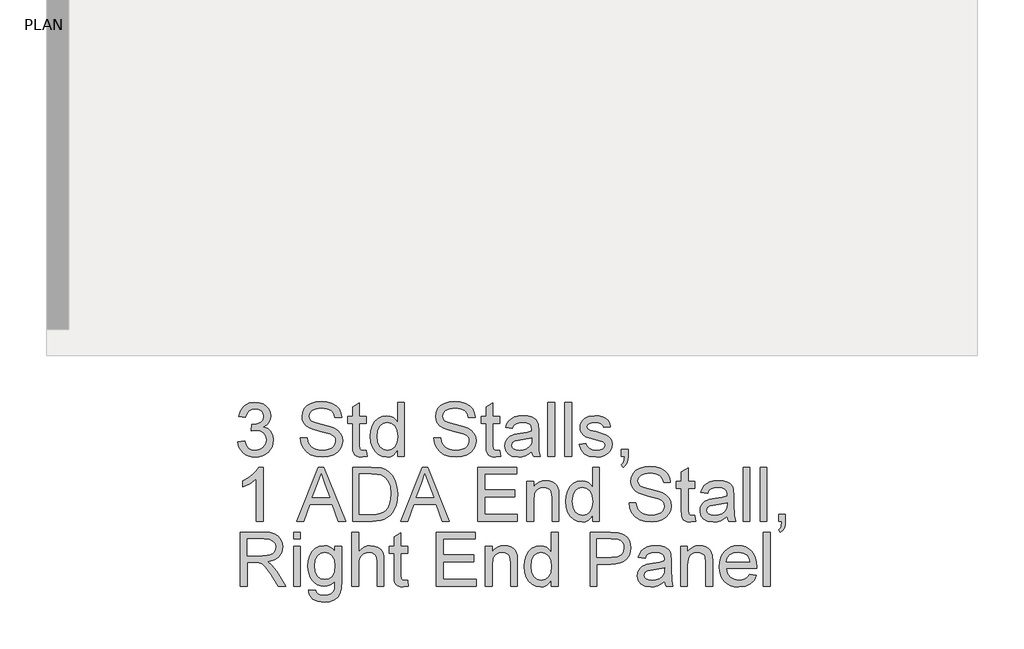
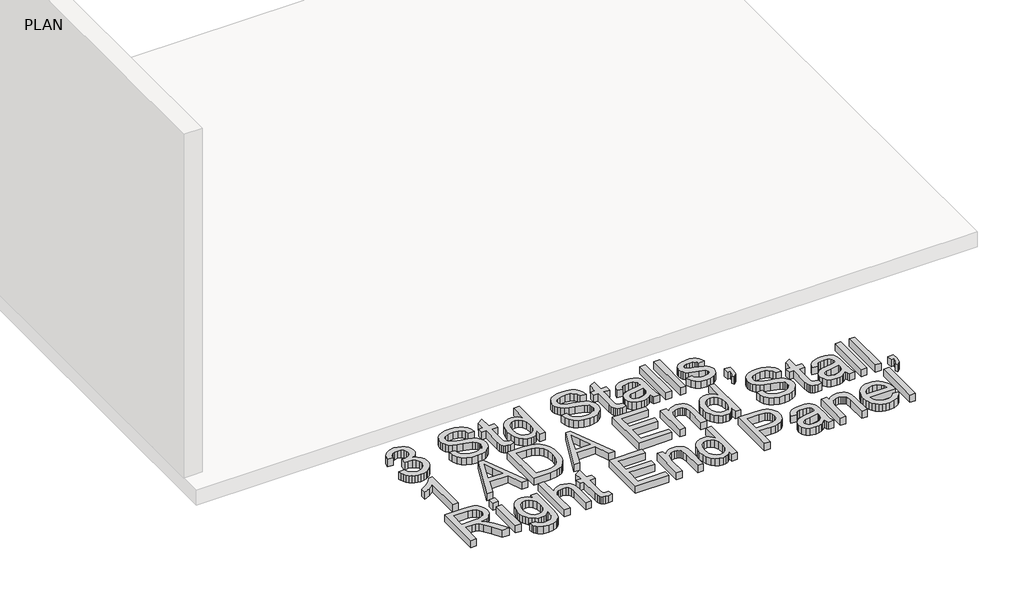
# One storey, part 13 of 21: 1 proxy.
"""IFC4 building model written with IfcOpenShell, lengths in millimetres."""

import ifcopenshell
import ifcopenshell.guid

model = None  # the IFC model being written
_history = None  # IfcOwnerHistory: only IFC2X3 demands one
_inside = {}  # id of a spatial element -> (the spatial element, [elements in it])
_under = {}  # id of a project, library or spatial element -> (it, [spatial elements below it])
_declared = {}  # id of a project -> (the project, [libraries it declares])
_typed = {}  # id of a type object -> (the type object, [elements of that type])
_made_of = {}  # id of a material, layer set ... -> (it, [elements and type objects made of it])


def new_model(schema):
    """Start an empty IFC model of exactly this schema.

    Asked for "IFC4X3", IfcOpenShell would pick the latest addendum, in which some entities
    have other attributes; the version numbers below select the first issue.
    IFC2X3 requires an IfcOwnerHistory on every rooted entity: one is made here for all.
    """
    global model, _history
    if schema == "IFC4X3":
        model = ifcopenshell.file(schema_version=(4, 3, 0, 0))
    else:
        model = ifcopenshell.file(schema=schema)
    _inside.clear()
    _under.clear()
    _declared.clear()
    _typed.clear()
    _made_of.clear()
    _history = None
    if model.schema == "IFC2X3":
        org = make("IfcOrganization", Name="unknown")
        user = make(
            "IfcPersonAndOrganization",
            ThePerson=make("IfcPerson", FamilyName="unknown"),
            TheOrganization=org,
        )
        app = make(
            "IfcApplication",
            ApplicationDeveloper=org,
            Version="unknown",
            ApplicationFullName="unknown",
            ApplicationIdentifier="unknown",
        )
        _history = make(
            "IfcOwnerHistory",
            OwningUser=user,
            OwningApplication=app,
            ChangeAction="ADDED",
            CreationDate=0,
        )
    return model


def make(cls, **values):
    """One entity of the class cls with the attributes given. An attribute that is None is left unset."""
    return model.create_entity(
        cls, **{name: value for name, value in values.items() if value is not None}
    )


def rooted(cls, **values):
    """An entity with a GlobalId (a new one), such as an element, a storey or a relation."""
    return make(cls, GlobalId=ifcopenshell.guid.new(), OwnerHistory=_history, **values)


def si_unit(unit_type, name, prefix=None):
    """IfcSIUnit, for example si_unit("LENGTHUNIT", "METRE", prefix="MILLI")."""
    return make("IfcSIUnit", UnitType=unit_type, Prefix=prefix, Name=name)


def assignment(units):
    """IfcUnitAssignment: the units of a project."""
    return None if units is None else make("IfcUnitAssignment", Units=units)


def point(xyz):
    """IfcCartesianPoint."""
    return None if xyz is None else make("IfcCartesianPoint", Coordinates=xyz)


def direction(xyz):
    """IfcDirection."""
    return None if xyz is None else make("IfcDirection", DirectionRatios=xyz)


def frame(location, z_axis=None, x_axis=None):
    """IfcAxis2Placement3D, a coordinate frame: its origin and axes. An axis left out is left unset."""
    return make(
        "IfcAxis2Placement3D",
        Location=point(location),
        Axis=direction(z_axis),
        RefDirection=direction(x_axis),
    )


def origin():
    """The frame at (0, 0, 0) with its axes left unset."""
    return frame((0.0, 0.0, 0.0))


def origin_with_axes():
    """The frame at (0, 0, 0) with the z axis (0, 0, 1) and the x axis (1, 0, 0) written out."""
    return frame((0.0, 0.0, 0.0), z_axis=(0.0, 0.0, 1.0), x_axis=(1.0, 0.0, 0.0))


def place(relative_to, where):
    """IfcLocalPlacement: puts the frame where relative to a parent placement (None: the world)."""
    return make(
        "IfcLocalPlacement", PlacementRelTo=relative_to, RelativePlacement=where
    )


def context(
    kind, dimensions, precision=None, world=None, true_north=None, identifier=None
):
    """IfcGeometricRepresentationContext, for example the 3D "Model" context."""
    return make(
        "IfcGeometricRepresentationContext",
        ContextIdentifier=identifier,
        ContextType=kind,
        CoordinateSpaceDimension=dimensions,
        Precision=precision,
        WorldCoordinateSystem=world,
        TrueNorth=true_north,
    )


def project(units=None, contexts=None):
    """IfcProject with its units and contexts."""
    return rooted(
        "IfcProject",
        Name="project",
        RepresentationContexts=contexts,
        UnitsInContext=assignment(units),
    )


def spatial(cls, under=None, at=None, **own):
    """A site, building, storey or space (cls), placed at a placement, below another one or the project."""
    s = rooted(cls, ObjectPlacement=at, **own)
    if under is not None:
        _under.setdefault(under.id(), (under, []))[1].append(s)
    return s


def polyline(points):
    """IfcPolyline through the points."""
    return make("IfcPolyline", Points=[point(p) for p in points])


def outline(outer, holes=None, kind="AREA"):
    """IfcArbitraryClosedProfileDef: a profile drawn as a closed curve; with holes, ...WithVoids."""
    if holes is None:
        return make("IfcArbitraryClosedProfileDef", ProfileType=kind, OuterCurve=outer)
    return make(
        "IfcArbitraryProfileDefWithVoids",
        ProfileType=kind,
        OuterCurve=outer,
        InnerCurves=holes,
    )


def extrude(swept, where, along, depth):
    """IfcExtrudedAreaSolid: the profile swept, set in the frame where, extruded along a direction by depth."""
    return make(
        "IfcExtrudedAreaSolid",
        SweptArea=swept,
        Position=where,
        ExtrudedDirection=direction(along),
        Depth=depth,
    )


def shape(context_of_items, identifier, shape_type, items):
    """IfcShapeRepresentation: the items that make up one representation, for example the "Body"."""
    return make(
        "IfcShapeRepresentation",
        ContextOfItems=context_of_items,
        RepresentationIdentifier=identifier,
        RepresentationType=shape_type,
        Items=items,
    )


def made_of(thing, what):
    """Note that an element or type object is made of a material, layer set ...; save() writes the relation."""
    if what is not None:
        _made_of.setdefault(what.id(), (what, []))[1].append(thing)
    return thing


def element(
    cls,
    number,
    at=None,
    inside=None,
    cuts=None,
    type_object=None,
    material=None,
    context=None,
    identifier="Body",
    shape_type=None,
    held_by="IfcProductDefinitionShape",
    body=None,
    shapes=None,
    **own,
):
    """One element of the class cls, such as IfcWall. Its Tag is "e" and its number.

    at: its placement. inside: the storey or other place that contains it. cuts: it is an
    opening in that element (IfcRelVoidsElement). A single representation is given by context,
    identifier, shape_type and body (its items); several are given by shapes. held_by: the class
    of the entity that holds the representations. save() writes the other relations.
    """
    e = rooted(cls, Tag="e%d" % number, ObjectPlacement=at, **own)
    if body is not None:
        shapes = [shape(context, identifier, shape_type, body)]
    if shapes is not None:
        e.Representation = make(held_by, Representations=shapes)
    if inside is not None:
        _inside.setdefault(inside.id(), (inside, []))[1].append(e)
    if cuts is not None:
        rooted(
            "IfcRelVoidsElement", RelatingBuildingElement=cuts, RelatedOpeningElement=e
        )
    if type_object is not None:
        _typed.setdefault(type_object.id(), (type_object, []))[1].append(e)
    return made_of(e, material)


def aggregate(whole, parts):
    """IfcRelAggregates: a whole, such as a stair, and the parts it consists of."""
    return rooted("IfcRelAggregates", RelatingObject=whole, RelatedObjects=parts)


def save(model, path):
    """Write the relations noted so far, then the file.

    IfcRelAggregates (storeys below a building ...), IfcRelContainedInSpatialStructure (elements
    in a storey), IfcRelDefinesByType, IfcRelAssociatesMaterial and IfcRelDeclares: one each for
    every whole, place, type object, material and project.
    """
    for whole, parts in _under.values():
        aggregate(whole, parts)
    for where, things in _inside.values():
        rooted(
            "IfcRelContainedInSpatialStructure",
            RelatedElements=things,
            RelatingStructure=where,
        )
    for kind, things in _typed.values():
        rooted("IfcRelDefinesByType", RelatedObjects=things, RelatingType=kind)
    for what, things in _made_of.values():
        rooted("IfcRelAssociatesMaterial", RelatedObjects=things, RelatingMaterial=what)
    for by, libraries in _declared.values():
        rooted("IfcRelDeclares", RelatingContext=by, RelatedDefinitions=libraries)
    model.write(path)


model = new_model("IFC4")

# Units and contexts
model_context = context("Model", 3, world=origin())
ifc_project = project(units=[si_unit("LENGTHUNIT", "METRE", prefix="MILLI")], contexts=[model_context])

# Site, building, storey
site = spatial("IfcSite", under=ifc_project)
building = spatial("IfcBuilding", under=site)
storey = spatial("IfcBuildingStorey", under=building, Name="PLAN", Elevation=0.0)

# Proxy
placement = place(None, origin())
element("IfcBuildingElementProxy", 1, Name="12\" Arial", ObjectType="12\" Arial", at=placement, inside=storey, context=model_context, shape_type="SweptSolid", body=[
    extrude(outline(polyline([(-14088.622826, 3793.9401982), (-14050.5519393, 3798.6990591), (-14042.0287451, 3774.7746298), (-14029.5460301, 3758.6205279), (-14012.4903472, 3749.4188243), (-13990.2482495, 3746.3515898), (-13964.1488721, 3750.5713609), (-13943.9980707, 3763.2306744), (-13931.1156856, 3782.1174033), (-13926.8215573, 3805.0194211), (-13931.078507, 3826.7596077), (-13943.8493563, 3844.3915589), (-13963.1822285, 3856.0749341), (-13987.1252471, 3859.9693925), (-14013.8194821, 3855.8053892), (-14009.5811217, 3893.876276), (-14003.4838312, 3893.4301328), (-13980.6747599, 3896.1627599), (-13960.2822976, 3904.3606413), (-13945.8941793, 3918.2282592), (-13941.0981398, 3937.970096), (-13944.574339, 3954.412332), (-13955.0029364, 3967.7501549), (-13970.9153773, 3976.5893671), (-13990.8431071, 3979.5357712), (-14010.8080155, 3976.5614832), (-14027.1294211, 3967.6386191), (-14039.0451625, 3952.7671789), (-14045.7930784, 3931.9471627), (-14083.8639652, 3936.7060236), (-14072.6546172, 3970.8917466), (-14052.7082981, 3996.4148557), (-14025.4192054, 4012.3087074), (-13992.1815367, 4017.6066579), (-13968.2478127, 4014.9948613), (-13946.2659653, 4007.1594712), (-13927.732433, 3994.7975866), (-13914.1436546, 3978.6063062), (-13905.8063535, 3959.9519435), (-13903.0272531, 3940.200812), (-13905.6669337, 3921.7974048), (-13913.5859756, 3905.1042133), (-13926.6728429, 3890.8833987), (-13944.8159999, 3879.8971222), (-13920.9845171, 3870.2678648), (-13903.3246819, 3853.872102), (-13892.3941734, 3831.6021204), (-13888.7506706, 3804.3502063), (-13890.572422, 3785.0359235), (-13896.0376762, 3767.2459632), (-13905.1464333, 3750.9803255), (-13917.8986932, 3736.2390105), (-13933.4347008, 3724.007251), (-13950.894701, 3715.2702799), (-13970.2786938, 3710.0280972), (-13991.5866791, 3708.280703), (-14010.8451941, 3709.7724944), (-14028.3934935, 3714.2478684), (-14044.2315772, 3721.7068251), (-14058.3594453, 3732.1493645), (-14070.2054769, 3744.9620396), (-14079.1980508, 3759.5314036), (-14085.3371672, 3775.8574565), (-14088.622826, 3793.9401982)])), origin_with_axes(), (0.0, 0.0, 1.0), 50.8),
    extrude(outline(polyline([(-13736.4671235, 3817.7345025), (-13698.3962368, 3817.7345025), (-13694.0277512, 3796.6077628), (-13686.1272986, 3779.6264371), (-13673.8025926, 3766.1491945), (-13656.1613468, 3755.5347041), (-13634.5977586, 3748.6473684), (-13610.5060255, 3746.3515898), (-13589.295634, 3748.0896894), (-13570.7249232, 3753.3039881), (-13555.6768847, 3761.5576373), (-13545.0345103, 3772.4137886), (-13538.7048536, 3784.8779144), (-13536.594968, 3797.9554871), (-13538.1750585, 3810.6984523), (-13542.9153301, 3821.7126127), (-13552.5445876, 3831.1095039), (-13568.7916359, 3839.0006619), (-13624.2249291, 3853.5374946), (-13660.6134842, 3863.1574574), (-13683.8965826, 3872.3126878), (-13702.8483741, 3885.1207156), (-13716.2791435, 3900.6427812), (-13724.2818373, 3918.5442773), (-13726.9494018, 3938.4905964), (-13723.649801, 3960.788462), (-13713.7509987, 3981.5805942), (-13697.513245, 3999.2032508), (-13675.1967901, 4011.9926893), (-13648.4096086, 4019.7723114), (-13618.7596748, 4022.3655188), (-13586.6373641, 4019.651481), (-13558.5303422, 4011.5093675), (-13535.4424314, 3998.1064821), (-13518.3774539, 3979.6101284), (-13507.5770705, 3957.1728431), (-13503.2829421, 3931.9471627), (-13541.3538289, 3931.9471627), (-13548.3434057, 3954.6632876), (-13562.9174171, 3971.0590503), (-13585.6893098, 3980.9857366), (-13617.2725308, 3984.294632), (-13649.5993238, 3981.0229152), (-13671.7763589, 3971.2077647), (-13684.602976, 3956.7638785), (-13688.8785151, 3939.6059544), (-13685.8484591, 3924.9761752), (-13676.7582914, 3913.2091482), (-13655.2690604, 3902.6876043), (-13614.5956716, 3891.9429888), (-13572.6210318, 3881.737463), (-13547.2280477, 3872.8331882), (-13525.5250398, 3859.0213382), (-13510.3840548, 3841.9749499), (-13501.4890747, 3821.8799164), (-13498.5240813, 3798.9221307), (-13501.9352179, 3775.4531392), (-13512.1686276, 3753.3783453), (-13528.8060513, 3734.3800805), (-13551.4292296, 3720.1406765), (-13578.6346704, 3711.2456964), (-13609.0188815, 3708.280703), (-13646.3183123, 3711.4780627), (-13677.0185416, 3721.0701416), (-13701.4727659, 3737.0941183), (-13720.0341822, 3759.5871715), (-13731.9499236, 3786.9878), (-13736.4671235, 3817.7345025)])), origin_with_axes(), (0.0, 0.0, 1.0), 50.8),
    extrude(outline(polyline([(-13365.2759776, 3744.7900886), (-13360.5171168, 3711.9242059), (-13388.9959246, 3708.280703), (-13407.2692067, 3709.8607935), (-13420.8951637, 3714.6010651), (-13430.5244212, 3721.9066601), (-13436.8076047, 3731.1827208), (-13440.2652145, 3747.1137511), (-13441.4177511, 3774.3842545), (-13441.4177511, 3898.6351368), (-13469.9709162, 3898.6351368), (-13469.9709162, 3936.7060236), (-13441.4177511, 3936.7060236), (-13441.4177511, 3991.0611373), (-13403.3468644, 4013.4426547), (-13403.3468644, 3936.7060236), (-13365.2759776, 3936.7060236), (-13365.2759776, 3898.6351368), (-13403.3468644, 3898.6351368), (-13403.3468644, 3775.4996125), (-13401.33922, 3755.8693115), (-13394.8329649, 3748.9169132), (-13381.8576334, 3746.3515898), (-13365.2759776, 3744.7900886)])), origin_with_axes(), (0.0, 0.0, 1.0), 50.8),
    extrude(outline(polyline([(-13189.1981264, 3713.0395639), (-13189.1981264, 3748.9540918), (-13200.58872, 3731.1594842), (-13214.3866281, 3718.4490502), (-13230.5918505, 3710.8227898), (-13249.2043873, 3708.280703), (-13273.8166208, 3711.9613845), (-13296.3468526, 3723.0034288), (-13315.4194746, 3740.63538), (-13329.6588785, 3764.0857822), (-13338.5259747, 3792.406581), (-13341.4816734, 3824.6497221), (-13338.7583409, 3856.4931933), (-13330.5883435, 3885.2508407), (-13316.9809758, 3909.2868058), (-13297.9455324, 3926.9652303), (-13274.9226841, 3937.8399709), (-13249.3531017, 3941.4648844), (-13230.726623, 3938.8716771), (-13214.256503, 3931.0920549), (-13200.2959386, 3919.1670189), (-13189.1981264, 3904.1375697), (-13189.1981264, 4017.6066579), (-13151.1272396, 4017.6066579), (-13151.1272396, 3713.0395639), (-13189.1981264, 3713.0395639)]), holes=[polyline([(-13303.4107866, 3824.7984365), (-13299.1166583, 3790.361758), (-13286.2342733, 3765.870355), (-13267.514848, 3751.2312811), (-13245.7095989, 3746.3515898), (-13223.9136444, 3751.0082095), (-13205.6682463, 3764.9780686), (-13193.3156564, 3788.5214172), (-13189.1981264, 3821.8985057), (-13193.3900136, 3858.3893019), (-13205.9656751, 3883.6893395), (-13224.6758057, 3898.4678331), (-13247.2711001, 3903.3939977), (-13269.2994208, 3898.6630208), (-13287.3496313, 3884.4700901), (-13299.3954978, 3860.0902229), (-13303.4107866, 3824.7984365)])]), origin_with_axes(), (0.0, 0.0, 1.0), 50.8),
    extrude(outline(polyline([(-12984.56711, 3817.7345025), (-12946.4962233, 3817.7345025), (-12942.1277377, 3796.6077628), (-12934.2272852, 3779.6264371), (-12921.9025791, 3766.1491945), (-12904.2613333, 3755.5347041), (-12882.6977451, 3748.6473684), (-12858.606012, 3746.3515898), (-12837.3956205, 3748.0896894), (-12818.8249097, 3753.3039881), (-12803.7768712, 3761.5576373), (-12793.1344968, 3772.4137886), (-12786.8048401, 3784.8779144), (-12784.6949546, 3797.9554871), (-12786.2750451, 3810.6984523), (-12791.0153166, 3821.7126127), (-12800.6445741, 3831.1095039), (-12816.8916225, 3839.0006619), (-12872.3249156, 3853.5374946), (-12908.7134707, 3863.1574574), (-12931.9965691, 3872.3126878), (-12950.9483607, 3885.1207156), (-12964.37913, 3900.6427812), (-12972.3818238, 3918.5442773), (-12975.0493883, 3938.4905964), (-12971.7497876, 3960.788462), (-12961.8509852, 3981.5805942), (-12945.6132315, 3999.2032508), (-12923.2967767, 4011.9926893), (-12896.5095951, 4019.7723114), (-12866.8596613, 4022.3655188), (-12834.7373506, 4019.651481), (-12806.6303288, 4011.5093675), (-12783.5424179, 3998.1064821), (-12766.4774404, 3979.6101284), (-12755.677057, 3957.1728431), (-12751.3829286, 3931.9471627), (-12789.4538154, 3931.9471627), (-12796.4433923, 3954.6632876), (-12811.0174036, 3971.0590503), (-12833.7892963, 3980.9857366), (-12865.3725173, 3984.294632), (-12897.6993103, 3981.0229152), (-12919.8763454, 3971.2077647), (-12932.7029625, 3956.7638785), (-12936.9785016, 3939.6059544), (-12933.9484457, 3924.9761752), (-12924.8582779, 3913.2091482), (-12903.3690469, 3902.6876043), (-12862.6956581, 3891.9429888), (-12820.7210183, 3881.737463), (-12795.3280343, 3872.8331882), (-12773.6250263, 3859.0213382), (-12758.4840413, 3841.9749499), (-12749.5890612, 3821.8799164), (-12746.6240678, 3798.9221307), (-12750.0352044, 3775.4531392), (-12760.2686141, 3753.3783453), (-12776.9060378, 3734.3800805), (-12799.5292161, 3720.1406765), (-12826.7346569, 3711.2456964), (-12857.118868, 3708.280703), (-12894.4182988, 3711.4780627), (-12925.1185281, 3721.0701416), (-12949.5727525, 3737.0941183), (-12968.1341687, 3759.5871715), (-12980.0499101, 3786.9878), (-12984.56711, 3817.7345025)])), origin_with_axes(), (0.0, 0.0, 1.0), 50.8),
    extrude(outline(polyline([(-12613.3759641, 3744.7900886), (-12608.6171033, 3711.9242059), (-12637.0959112, 3708.280703), (-12655.3691932, 3709.8607935), (-12668.9951503, 3714.6010651), (-12678.6244078, 3721.9066601), (-12684.9075912, 3731.1827208), (-12688.365201, 3747.1137511), (-12689.5177377, 3774.3842545), (-12689.5177377, 3898.6351368), (-12718.0709027, 3898.6351368), (-12718.0709027, 3936.7060236), (-12689.5177377, 3936.7060236), (-12689.5177377, 3991.0611373), (-12651.4468509, 4013.4426547), (-12651.4468509, 3936.7060236), (-12613.3759641, 3936.7060236), (-12613.3759641, 3898.6351368), (-12651.4468509, 3898.6351368), (-12651.4468509, 3775.4996125), (-12649.4392065, 3755.8693115), (-12642.9329514, 3748.9169132), (-12629.9576199, 3746.3515898), (-12613.3759641, 3744.7900886)])), origin_with_axes(), (0.0, 0.0, 1.0), 50.8),
    extrude(outline(polyline([(-12432.539252, 3741.5927289), (-12450.7288823, 3725.9963061), (-12469.4576022, 3715.7907803), (-12489.1529657, 3710.1582224), (-12510.2425268, 3708.280703), (-12542.058114, 3712.797903), (-12565.5271055, 3726.3495028), (-12579.9988757, 3746.9278581), (-12584.8227991, 3772.5253244), (-12583.0010477, 3788.3076403), (-12577.5357934, 3802.6399907), (-12569.1055458, 3814.9089288), (-12558.3888142, 3824.5010077), (-12531.7317578, 3836.9930174), (-12498.7915179, 3842.7185219), (-12459.8655233, 3848.7414552), (-12432.7623236, 3855.8053892), (-12432.539252, 3864.2821101), (-12435.1603434, 3881.2727305), (-12443.0236173, 3892.389132), (-12460.6090953, 3900.6427812), (-12485.1097929, 3903.3939977), (-12507.7887391, 3901.5629516), (-12523.6268229, 3896.0698134), (-12534.4272063, 3885.9107609), (-12541.9930515, 3870.0819718), (-12580.0639382, 3874.8408326), (-12573.455442, 3895.6608488), (-12563.5938183, 3912.019433), (-12549.5588966, 3924.530032), (-12530.4305068, 3933.8060928), (-12507.0358725, 3939.5501865), (-12480.2022177, 3941.4648844), (-12454.4653316, 3939.7732581), (-12434.0635747, 3934.6983792), (-12418.6809288, 3927.0674714), (-12408.0013758, 3917.7077588), (-12400.9188524, 3906.1359194), (-12396.3272953, 3891.8686316), (-12394.4683653, 3858.5566056), (-12394.4683653, 3811.1910688), (-12392.5350781, 3745.0503388), (-12384.9506436, 3713.0395639), (-12423.0215303, 3713.0395639), (-12429.1188208, 3726.2751456), (-12432.539252, 3741.5927289)]), holes=[polyline([(-12432.539252, 3817.7345025), (-12493.9582998, 3806.060422), (-12526.7126467, 3799.8887743), (-12541.5469083, 3789.8505522), (-12546.7519123, 3775.2021837), (-12543.917044, 3763.8812999), (-12535.4124392, 3754.6052391), (-12521.4239908, 3748.4150021), (-12502.1375919, 3746.3515898), (-12481.6893617, 3748.6287791), (-12463.6205619, 3755.4603469), (-12448.9721934, 3765.5264529), (-12438.7852569, 3777.5072569), (-12434.268057, 3789.8505522), (-12432.7623236, 3806.9527084), (-12432.539252, 3817.7345025)])]), origin_with_axes(), (0.0, 0.0, 1.0), 50.8),
    extrude(outline(polyline([(-12342.120896, 3713.0395639), (-12342.120896, 4017.6066579), (-12304.0500092, 4017.6066579), (-12304.0500092, 3713.0395639), (-12342.120896, 3713.0395639)])), origin_with_axes(), (0.0, 0.0, 1.0), 50.8),
    extrude(outline(polyline([(-12246.9436791, 3713.0395639), (-12246.9436791, 4017.6066579), (-12208.8727923, 4017.6066579), (-12208.8727923, 3713.0395639), (-12246.9436791, 3713.0395639)])), origin_with_axes(), (0.0, 0.0, 1.0), 50.8),
    extrude(outline(polyline([(-12166.0430447, 3779.6636157), (-12127.972158, 3784.4224765), (-12121.967814, 3768.1382496), (-12110.3495014, 3756.1667403), (-12093.0428629, 3748.8053774), (-12069.9735414, 3746.3515898), (-12047.1830594, 3748.6008951), (-12031.1590827, 3755.3488111), (-12021.6785396, 3765.126783), (-12018.5183585, 3776.4662561), (-12021.6971289, 3786.1698708), (-12031.2334399, 3793.5684122), (-12070.4196846, 3804.4245635), (-12127.7490864, 3823.0510423), (-12142.2580352, 3832.410755), (-12152.7702844, 3844.8005235), (-12159.155709, 3859.4303028), (-12161.2841839, 3875.5100474), (-12159.5739683, 3890.2606571), (-12154.4433214, 3903.8773195), (-12146.3569758, 3915.8209448), (-12135.779664, 3925.5524435), (-12111.5763952, 3936.8175594), (-12078.8220483, 3941.4648844), (-12054.0425112, 3939.5966598), (-12032.4975123, 3933.9919858), (-12015.1722845, 3925.1992468), (-12003.0520608, 3913.7668272), (-11995.0214831, 3898.8489138), (-11989.9651935, 3879.5996934), (-12028.0360802, 3874.8408326), (-12032.8414143, 3886.8216366), (-12042.3498414, 3895.8467418), (-12056.6543078, 3901.5071837), (-12075.8477603, 3903.3939977), (-12097.7087773, 3901.5908356), (-12112.2827886, 3896.1813492), (-12120.48067, 3888.3738431), (-12123.2132971, 3879.3766218), (-12118.6775079, 3868.2973989), (-12104.4752825, 3859.8950353), (-12071.683757, 3851.7901004), (-12015.8043207, 3833.870015), (-12001.0444164, 3825.3003476), (-11989.8536577, 3813.5704992), (-11982.7990183, 3798.6432912), (-11980.4474718, 3780.4815449), (-11983.2079829, 3761.7063517), (-11991.4895161, 3744.0465166), (-12004.9760534, 3728.8869423), (-12023.3515766, 3717.6125317), (-12045.547201, 3710.6136602), (-12070.4940418, 3708.280703), (-12108.8809467, 3712.7793137), (-12136.8950221, 3726.2751456), (-12155.595858, 3748.6194844), (-12166.0430447, 3779.6636157)])), origin_with_axes(), (0.0, 0.0, 1.0), 50.8),
    extrude(outline(polyline([(-11928.1000025, 3713.0395639), (-11928.1000025, 3751.1104506), (-11890.0291157, 3751.1104506), (-11890.0291157, 3713.0395639), (-11891.7393313, 3691.2621987), (-11896.8699782, 3674.1135693), (-11905.7184851, 3660.9616394), (-11918.5822808, 3651.1743729), (-11928.1000025, 3665.4509554), (-11919.8463532, 3672.3475858), (-11914.1208488, 3681.8838968), (-11909.1389163, 3713.0395639), (-11928.1000025, 3713.0395639)])), origin_with_axes(), (0.0, 0.0, 1.0), 50.8),
    extrude(outline(polyline([(-13945.8570007, 3346.9868995), (-13983.9278874, 3346.9868995), (-13983.9278874, 3584.3350842), (-14019.9911298, 3558.6446713), (-14060.069661, 3539.423335), (-14060.069661, 3575.4122201), (-14030.1687716, 3591.6778577), (-14004.2645818, 3611.0293192), (-13983.8442356, 3631.6076745), (-13970.3948769, 3651.5539936), (-13945.8570007, 3651.5539936), (-13945.8570007, 3346.9868995)])), origin_with_axes(), (0.0, 0.0, 1.0), 50.8),
    extrude(outline(polyline([(-13757.6589257, 3346.9868995), (-13636.0849026, 3651.5539936), (-13603.6651631, 3651.5539936), (-13482.0911399, 3346.9868995), (-13522.3183855, 3346.9868995), (-13557.1919126, 3442.1641164), (-13682.6325102, 3442.1641164), (-13717.4316801, 3346.9868995), (-13757.6589257, 3346.9868995)]), holes=[polyline([(-13668.6533565, 3480.2350032), (-13571.0967092, 3480.2350032), (-13598.5345162, 3555.1127043), (-13619.8750328, 3613.4831068), (-13638.836119, 3561.656138), (-13668.6533565, 3480.2350032)])]), origin_with_axes(), (0.0, 0.0, 1.0), 50.8),
    extrude(outline(polyline([(-13441.4177511, 3346.9868995), (-13441.4177511, 3651.5539936), (-13336.3510265, 3651.5539936), (-13281.9959128, 3647.1669188), (-13257.7182868, 3638.7087872), (-13237.232878, 3625.380259), (-13216.1712009, 3602.1808123), (-13201.1696357, 3573.3302185), (-13192.1910037, 3539.3861564), (-13189.1981264, 3500.906305), (-13191.2243601, 3468.2170206), (-13197.3030612, 3439.4500786), (-13206.5605327, 3414.9586756), (-13218.1230774, 3395.0960084), (-13231.4330164, 3379.4159337), (-13245.9326705, 3367.4723083), (-13262.5793888, 3358.6145068), (-13282.3305202, 3352.1919036), (-13331.2947369, 3346.9868995), (-13441.4177511, 3346.9868995)]), holes=[polyline([(-13403.3468644, 3385.0577863), (-13335.9792405, 3385.0577863), (-13308.1138796, 3386.4333945), (-13286.9778453, 3390.5602191), (-13271.0282257, 3397.1965993), (-13258.722109, 3406.1008741), (-13245.4958219, 3422.5802887), (-13235.559841, 3443.9115107), (-13229.3417201, 3470.1874864), (-13227.2690131, 3501.5011626), (-13231.3307752, 3542.9924806), (-13243.5160615, 3573.6276473), (-13261.5197987, 3594.6707351), (-13283.0369136, 3607.3858164), (-13304.9351093, 3611.9587842), (-13337.0202414, 3613.4831068), (-13403.3468644, 3613.4831068), (-13403.3468644, 3385.0577863)])]), origin_with_axes(), (0.0, 0.0, 1.0), 50.8),
    extrude(outline(polyline([(-13172.3190418, 3346.9868995), (-13050.7450187, 3651.5539936), (-13018.3252792, 3651.5539936), (-12896.751256, 3346.9868995), (-12936.9785016, 3346.9868995), (-12971.8520287, 3442.1641164), (-13097.2926263, 3442.1641164), (-13132.0917962, 3346.9868995), (-13172.3190418, 3346.9868995)]), holes=[polyline([(-13083.3134726, 3480.2350032), (-12985.7568252, 3480.2350032), (-13013.1946323, 3555.1127043), (-13034.5351489, 3613.4831068), (-13053.4962351, 3561.656138), (-13083.3134726, 3480.2350032)])]), origin_with_axes(), (0.0, 0.0, 1.0), 50.8),
    extrude(outline(polyline([(-12737.1063461, 3346.9868995), (-12737.1063461, 3651.5539936), (-12518.1987472, 3651.5539936), (-12518.1987472, 3613.4831068), (-12699.0354593, 3613.4831068), (-12699.0354593, 3523.0647508), (-12527.7164689, 3523.0647508), (-12527.7164689, 3484.993864), (-12699.0354593, 3484.993864), (-12699.0354593, 3385.0577863), (-12513.4398864, 3385.0577863), (-12513.4398864, 3346.9868995), (-12737.1063461, 3346.9868995)])), origin_with_axes(), (0.0, 0.0, 1.0), 50.8),
    extrude(outline(polyline([(-12461.0924171, 3346.9868995), (-12461.0924171, 3570.6533592), (-12423.0215303, 3570.6533592), (-12423.0215303, 3539.423335), (-12409.7952433, 3555.1684722), (-12393.9106863, 3566.4149988), (-12375.3678593, 3573.1629148), (-12354.1667625, 3575.4122201), (-12335.400864, 3573.5997633), (-12318.215056, 3568.162393), (-12303.8827055, 3559.7786186), (-12293.6771797, 3549.1269496), (-12282.2633494, 3521.1314636), (-12280.255705, 3484.3246492), (-12280.255705, 3346.9868995), (-12318.3265918, 3346.9868995), (-12318.3265918, 3479.1940024), (-12322.7136666, 3512.8778143), (-12328.7830731, 3522.9067417), (-12338.2171429, 3530.6863639), (-12350.3094827, 3535.677591), (-12364.353699, 3537.3413333), (-12386.6515646, 3533.604884), (-12405.659124, 3522.395536), (-12413.2551768, 3513.244953), (-12418.6809288, 3500.7390013), (-12423.0215303, 3465.6609919), (-12423.0215303, 3346.9868995), (-12461.0924171, 3346.9868995)])), origin_with_axes(), (0.0, 0.0, 1.0), 50.8),
    extrude(outline(polyline([(-12089.9012712, 3346.9868995), (-12089.9012712, 3382.9014275), (-12101.2918649, 3365.1068199), (-12115.0897729, 3352.3963859), (-12131.2949954, 3344.7701255), (-12149.9075322, 3342.2280387), (-12174.5197656, 3345.9087201), (-12197.0499974, 3356.9507644), (-12216.1226194, 3374.5827156), (-12230.3620233, 3398.0331178), (-12239.2291195, 3426.3539166), (-12242.1848182, 3458.5970578), (-12239.4614858, 3490.440529), (-12231.2914883, 3519.1981764), (-12217.6841206, 3543.2341415), (-12198.6486772, 3560.912566), (-12175.625829, 3571.7873066), (-12150.0562466, 3575.4122201), (-12131.4297678, 3572.8190127), (-12114.9596478, 3565.0393906), (-12100.9990834, 3553.1143545), (-12089.9012712, 3538.0849053), (-12089.9012712, 3651.5539936), (-12051.8303845, 3651.5539936), (-12051.8303845, 3346.9868995), (-12089.9012712, 3346.9868995)]), holes=[polyline([(-12204.1139315, 3458.7457722), (-12199.8198031, 3424.3090936), (-12186.9374181, 3399.8176906), (-12168.2179928, 3385.1786167), (-12146.4127437, 3380.2989255), (-12124.6167893, 3384.9555451), (-12106.3713912, 3398.9254042), (-12094.0188012, 3422.4687529), (-12089.9012712, 3455.8458414), (-12094.0931584, 3492.3366376), (-12106.66882, 3517.6366751), (-12125.3789506, 3532.4151688), (-12147.974245, 3537.3413333), (-12170.0025657, 3532.6103564), (-12188.0527761, 3518.4174258), (-12200.0986426, 3494.0375586), (-12204.1139315, 3458.7457722)])]), origin_with_axes(), (0.0, 0.0, 1.0), 50.8),
    extrude(outline(polyline([(-11885.2702549, 3451.6818381), (-11847.1993681, 3451.6818381), (-11842.8308826, 3430.5550985), (-11834.93043, 3413.5737728), (-11822.605724, 3400.0965301), (-11804.9644781, 3389.4820397), (-11783.4008899, 3382.594704), (-11759.3091569, 3380.2989255), (-11738.0987654, 3382.037025), (-11719.5280545, 3387.2513237), (-11704.480016, 3395.504973), (-11693.8376417, 3406.3611243), (-11687.507985, 3418.8252501), (-11685.3980994, 3431.9028227), (-11686.9781899, 3444.645788), (-11691.7184615, 3455.6599484), (-11701.3477189, 3465.0568396), (-11717.5947673, 3472.9479975), (-11773.0280604, 3487.4848303), (-11809.4166155, 3497.1047931), (-11832.699714, 3506.2600234), (-11851.6515055, 3519.0680513), (-11865.0822749, 3534.5901169), (-11873.0849686, 3552.491613), (-11875.7525332, 3572.4379321), (-11872.4529324, 3594.7357976), (-11862.5541301, 3615.5279299), (-11846.3163764, 3633.1505864), (-11823.9999215, 3645.940025), (-11797.21274, 3653.7196471), (-11767.5628062, 3656.3128545), (-11735.4404955, 3653.5988166), (-11707.3334736, 3645.4567031), (-11684.2455628, 3632.0538177), (-11667.1805852, 3613.557464), (-11656.3802018, 3591.1201787), (-11652.0860735, 3565.8944984), (-11690.1569602, 3565.8944984), (-11697.1465371, 3588.6106232), (-11711.7205484, 3605.006386), (-11734.4924412, 3614.9330723), (-11766.0756622, 3618.2419677), (-11798.4024552, 3614.9702509), (-11820.5794903, 3605.1551004), (-11833.4061074, 3590.7112141), (-11837.6816464, 3573.5532901), (-11834.6515905, 3558.9235108), (-11825.5614227, 3547.1564838), (-11804.0721917, 3536.6349399), (-11763.3988029, 3525.8903244), (-11721.4241631, 3515.6847986), (-11696.0311791, 3506.7805238), (-11674.3281711, 3492.9686738), (-11659.1871862, 3475.9222856), (-11650.292206, 3455.8272521), (-11647.3272126, 3432.8694663), (-11650.7383492, 3409.4004749), (-11660.971759, 3387.3256809), (-11677.6091826, 3368.3274161), (-11700.2323609, 3354.0880122), (-11727.4378017, 3345.1930321), (-11757.8220129, 3342.2280387), (-11795.1214437, 3345.4253983), (-11825.8216729, 3355.0174772), (-11850.2758973, 3371.041454), (-11868.8373135, 3393.5345072), (-11880.7530549, 3420.9351356), (-11885.2702549, 3451.6818381)])), origin_with_axes(), (0.0, 0.0, 1.0), 50.8),
    extrude(outline(polyline([(-11514.079109, 3378.7374242), (-11509.3202481, 3345.8715415), (-11537.799056, 3342.2280387), (-11556.0723381, 3343.8081292), (-11569.6982951, 3348.5484008), (-11579.3275526, 3355.8539957), (-11585.6107361, 3365.1300565), (-11589.0683459, 3381.0610868), (-11590.2208825, 3408.3315901), (-11590.2208825, 3532.5824725), (-11618.7740476, 3532.5824725), (-11618.7740476, 3570.6533592), (-11590.2208825, 3570.6533592), (-11590.2208825, 3625.008473), (-11552.1499957, 3647.3899904), (-11552.1499957, 3570.6533592), (-11514.079109, 3570.6533592), (-11514.079109, 3532.5824725), (-11552.1499957, 3532.5824725), (-11552.1499957, 3409.4469481), (-11550.1423513, 3389.8166471), (-11543.6360963, 3382.8642489), (-11530.6607647, 3380.2989255), (-11514.079109, 3378.7374242)])), origin_with_axes(), (0.0, 0.0, 1.0), 50.8),
    extrude(outline(polyline([(-11333.2423969, 3375.5400646), (-11351.4320271, 3359.9436418), (-11370.160747, 3349.738116), (-11389.8561106, 3344.105558), (-11410.9456716, 3342.2280387), (-11442.7612589, 3346.7452386), (-11466.2302503, 3360.2968385), (-11480.7020205, 3380.8751938), (-11485.5259439, 3406.4726601), (-11483.7041925, 3422.2549759), (-11478.2389382, 3436.5873264), (-11469.8086906, 3448.8562645), (-11459.0919591, 3458.4483434), (-11432.4349026, 3470.9403531), (-11399.4946627, 3476.6658576), (-11360.5686681, 3482.6887908), (-11333.4654685, 3489.7527249), (-11333.2423969, 3498.2294458), (-11335.8634882, 3515.2200661), (-11343.7267622, 3526.3364676), (-11361.3122401, 3534.5901169), (-11385.8129378, 3537.3413333), (-11408.491884, 3535.5102873), (-11424.3299677, 3530.0171491), (-11435.1303511, 3519.8580965), (-11442.6961963, 3504.0293074), (-11480.7670831, 3508.7881683), (-11474.1585869, 3529.6081845), (-11464.2969631, 3545.9667686), (-11450.2620415, 3558.4773676), (-11431.1336516, 3567.7534284), (-11407.7390173, 3573.4975222), (-11380.9053625, 3575.4122201), (-11355.1684764, 3573.7205938), (-11334.7667195, 3568.6457148), (-11319.3840736, 3561.0148071), (-11308.7045207, 3551.6550945), (-11301.6219973, 3540.0832551), (-11297.0304401, 3525.8159672), (-11295.1715101, 3492.5039413), (-11295.1715101, 3445.1384045), (-11293.2382229, 3378.9976744), (-11285.6537884, 3346.9868995), (-11323.7246752, 3346.9868995), (-11329.8219657, 3360.2224813), (-11333.2423969, 3375.5400646)]), holes=[polyline([(-11333.2423969, 3451.6818381), (-11394.6614447, 3440.0077576), (-11427.4157916, 3433.83611), (-11442.2500531, 3423.7978879), (-11447.4550572, 3409.1495193), (-11444.6201889, 3397.8286355), (-11436.1155841, 3388.5525747), (-11422.1271357, 3382.3623378), (-11402.8407367, 3380.2989255), (-11382.3925065, 3382.5761147), (-11364.3237068, 3389.4076825), (-11349.6753382, 3399.4737886), (-11339.4884017, 3411.4545925), (-11334.9712018, 3423.7978879), (-11333.4654685, 3440.900044), (-11333.2423969, 3451.6818381)])]), origin_with_axes(), (0.0, 0.0, 1.0), 50.8),
    extrude(outline(polyline([(-11242.8240408, 3346.9868995), (-11242.8240408, 3651.5539936), (-11204.7531541, 3651.5539936), (-11204.7531541, 3346.9868995), (-11242.8240408, 3346.9868995)])), origin_with_axes(), (0.0, 0.0, 1.0), 50.8),
    extrude(outline(polyline([(-11147.6468239, 3346.9868995), (-11147.6468239, 3651.5539936), (-11109.5759372, 3651.5539936), (-11109.5759372, 3346.9868995), (-11147.6468239, 3346.9868995)])), origin_with_axes(), (0.0, 0.0, 1.0), 50.8),
    extrude(outline(polyline([(-11042.9518853, 3346.9868995), (-11042.9518853, 3385.0577863), (-11004.8809986, 3385.0577863), (-11004.8809986, 3346.9868995), (-11006.5912142, 3325.2095344), (-11011.7218611, 3308.060905), (-11020.5703679, 3294.9089751), (-11033.4341637, 3285.1217086), (-11042.9518853, 3299.3982911), (-11034.6982361, 3306.2949215), (-11028.9727316, 3315.8312324), (-11023.9907992, 3346.9868995), (-11042.9518853, 3346.9868995)])), origin_with_axes(), (0.0, 0.0, 1.0), 50.8),
    extrude(outline(polyline([(-14074.3462435, 2980.9342352), (-14074.3462435, 3285.5013293), (-13943.1057843, 3285.5013293), (-13907.8325872, 3283.4472116), (-13882.1700583, 3277.2848586), (-13863.4134544, 3265.9082069), (-13848.8580324, 3248.2111931), (-13839.516909, 3226.2665243), (-13836.4032013, 3202.1469073), (-13841.5617321, 3172.1437768), (-13857.0373245, 3147.2712932), (-13868.7602019, 3137.1354772), (-13883.2947109, 3129.0351897), (-13920.7986241, 3118.9411997), (-13899.1606786, 3102.6569727), (-13868.3024404, 3063.470728), (-13817.5164723, 2980.9342352), (-13861.7590067, 2980.9342352), (-13901.3913947, 3044.0634986), (-13930.0189169, 3085.8522454), (-13950.1325397, 3105.5940822), (-13968.2385181, 3112.8439092), (-13990.3226067, 3114.1823389), (-14036.2753567, 3114.1823389), (-14036.2753567, 2980.9342352), (-14074.3462435, 2980.9342352)]), holes=[polyline([(-14036.2753567, 3152.2532256), (-13951.0620047, 3152.2532256), (-13926.5891911, 3153.6009499), (-13907.6002209, 3157.6441227), (-13893.3050491, 3164.6522888), (-13882.9136303, 3174.8949932), (-13876.5839736, 3187.2847618), (-13874.474088, 3200.7341205), (-13878.4986715, 3219.3048313), (-13890.572422, 3234.269218), (-13911.3459649, 3244.1401364), (-13941.4699258, 3247.4304425), (-14036.2753567, 3247.4304425), (-14036.2753567, 3152.2532256)])]), origin_with_axes(), (0.0, 0.0, 1.0), 50.8),
    extrude(outline(polyline([(-13774.5380103, 2980.9342352), (-13774.5380103, 3204.6006949), (-13736.4671235, 3204.6006949), (-13736.4671235, 2980.9342352), (-13774.5380103, 2980.9342352)])), origin_with_axes(), (0.0, 0.0, 1.0), 50.8),
    extrude(outline(polyline([(-13774.5380103, 3247.4304425), (-13774.5380103, 3285.5013293), (-13736.4671235, 3285.5013293), (-13736.4671235, 3247.4304425), (-13774.5380103, 3247.4304425)])), origin_with_axes(), (0.0, 0.0, 1.0), 50.8),
    extrude(outline(polyline([(-13688.8785151, 2961.8987918), (-13650.8076283, 2957.139931), (-13646.6064465, 2945.2427789), (-13638.464333, 2937.0634868), (-13622.4589455, 2930.7059461), (-13601.5088042, 2928.5867659), (-13579.1644654, 2930.9847856), (-13562.5456311, 2938.1788448), (-13551.020265, 2949.7042109), (-13543.9563309, 2965.0961514), (-13541.3538289, 3009.4874003), (-13554.0224369, 2996.9953906), (-13568.1595997, 2988.0725265), (-13583.7653172, 2982.718808), (-13600.8395894, 2980.9342352), (-13621.7130499, 2983.0115895), (-13640.0908968, 2989.2436524), (-13655.9731301, 2999.6304239), (-13669.3597499, 3014.1719039), (-13679.9812113, 3031.6179621), (-13687.5679694, 3050.7184681), (-13692.1200243, 3071.4734217), (-13693.6373759, 3093.8828231), (-13690.9140434, 3124.6202309), (-13682.744046, 3152.8852618), (-13669.4155178, 3176.8375751), (-13651.2165929, 3194.63683), (-13628.770013, 3205.6788743), (-13602.6985195, 3209.3595558), (-13584.8946172, 3207.2775541), (-13568.735868, 3201.0315493), (-13554.2222719, 3190.6215412), (-13541.3538289, 3176.0475298), (-13541.3538289, 3204.6006949), (-13503.2829421, 3204.6006949), (-13503.2829421, 3011.4950447), (-13505.8854441, 2966.9086082), (-13513.6929502, 2937.5468086), (-13527.1423089, 2918.0745167), (-13546.6703687, 2903.1566033), (-13571.8495758, 2893.6760602), (-13602.2523763, 2890.5158791), (-13637.6742877, 2894.9680165), (-13665.5675326, 2908.3244287), (-13676.0728109, 2918.3510325), (-13683.4597341, 2930.6222943), (-13687.7283021, 2945.138214), (-13688.8785151, 2961.8987918)]), holes=[polyline([(-13655.5664892, 3096.4853251), (-13651.5047271, 3061.5653247), (-13639.3194408, 3037.5572435), (-13620.9996855, 3023.6431524), (-13598.5345162, 3019.005122), (-13576.2366507, 3023.6152684), (-13557.8239488, 3037.4457077), (-13545.4713589, 3061.1470655), (-13541.3538289, 3095.3699671), (-13545.5921893, 3128.3752695), (-13558.3072706, 3152.1416898), (-13576.9895173, 3166.5019242), (-13599.1293738, 3171.288669), (-13620.8695604, 3166.5762814), (-13639.0963692, 3152.4391186), (-13651.4489592, 3129.025895), (-13655.5664892, 3096.4853251)])]), origin_with_axes(), (0.0, 0.0, 1.0), 50.8),
    extrude(outline(polyline([(-13446.176612, 2980.9342352), (-13446.176612, 3285.5013293), (-13408.1057252, 3285.5013293), (-13408.1057252, 3173.519385), (-13394.1219242, 3189.1994597), (-13378.4186128, 3200.3995131), (-13360.9957913, 3207.1195451), (-13341.8534594, 3209.3595558), (-13318.8584951, 3206.9150628), (-13299.098069, 3199.5815839), (-13283.5388248, 3187.9353873), (-13273.147406, 3172.5527414), (-13267.2917764, 3151.4167071), (-13265.3398999, 3122.5103453), (-13265.3398999, 2980.9342352), (-13303.4107866, 2980.9342352), (-13303.4107866, 3118.5694137), (-13306.4408426, 3142.4008965), (-13315.5310104, 3158.7223021), (-13330.1793789, 3168.1470773), (-13349.8840371, 3171.288669), (-13365.9730764, 3169.1694888), (-13381.0768828, 3162.8119481), (-13393.5874818, 3152.8294939), (-13401.896899, 3139.8355731), (-13406.5535187, 3122.5661132), (-13408.1057252, 3099.7570419), (-13408.1057252, 2980.9342352), (-13446.176612, 2980.9342352)])), origin_with_axes(), (0.0, 0.0, 1.0), 50.8),
    extrude(outline(polyline([(-13132.0917962, 3012.6847599), (-13127.3329354, 2979.8188772), (-13155.8117432, 2976.1753744), (-13174.0850253, 2977.7554649), (-13187.7109823, 2982.4957364), (-13197.3402398, 2989.8013314), (-13203.6234233, 2999.0773922), (-13207.0810331, 3015.0084224), (-13208.2335697, 3042.2789258), (-13208.2335697, 3166.5298081), (-13236.7867348, 3166.5298081), (-13236.7867348, 3204.6006949), (-13208.2335697, 3204.6006949), (-13208.2335697, 3258.9558086), (-13170.162683, 3281.337326), (-13170.162683, 3204.6006949), (-13132.0917962, 3204.6006949), (-13132.0917962, 3166.5298081), (-13170.162683, 3166.5298081), (-13170.162683, 3043.3942838), (-13168.1550386, 3023.7639828), (-13161.6487835, 3016.8115845), (-13148.673452, 3014.2462611), (-13132.0917962, 3012.6847599)])), origin_with_axes(), (0.0, 0.0, 1.0), 50.8),
    extrude(outline(polyline([(-12970.2905275, 2980.9342352), (-12970.2905275, 3285.5013293), (-12751.3829286, 3285.5013293), (-12751.3829286, 3247.4304425), (-12932.2196407, 3247.4304425), (-12932.2196407, 3157.0120865), (-12760.9006503, 3157.0120865), (-12760.9006503, 3118.9411997), (-12932.2196407, 3118.9411997), (-12932.2196407, 3019.005122), (-12746.6240678, 3019.005122), (-12746.6240678, 2980.9342352), (-12970.2905275, 2980.9342352)])), origin_with_axes(), (0.0, 0.0, 1.0), 50.8),
    extrude(outline(polyline([(-12694.2765985, 2980.9342352), (-12694.2765985, 3204.6006949), (-12656.2057117, 3204.6006949), (-12656.2057117, 3173.3706706), (-12642.9794247, 3189.1158079), (-12627.0948677, 3200.3623345), (-12608.5520407, 3207.1102504), (-12587.3509439, 3209.3595558), (-12568.5850454, 3207.547099), (-12551.3992374, 3202.1097287), (-12537.0668869, 3193.7259543), (-12526.8613611, 3183.0742853), (-12515.4475308, 3155.0787992), (-12513.4398864, 3118.2719849), (-12513.4398864, 2980.9342352), (-12551.5107732, 2980.9342352), (-12551.5107732, 3113.141338), (-12555.897848, 3146.82515), (-12561.9672545, 3156.8540774), (-12571.4013243, 3164.6336995), (-12583.4936641, 3169.6249266), (-12597.5378804, 3171.288669), (-12619.8357459, 3167.5522197), (-12638.8433054, 3156.3428717), (-12646.4393582, 3147.1922886), (-12651.8651102, 3134.6863369), (-12656.2057117, 3099.6083275), (-12656.2057117, 2980.9342352), (-12694.2765985, 2980.9342352)])), origin_with_axes(), (0.0, 0.0, 1.0), 50.8),
    extrude(outline(polyline([(-12323.0854526, 2980.9342352), (-12323.0854526, 3016.8487631), (-12334.4760463, 2999.0541555), (-12348.2739543, 2986.3437215), (-12364.4791768, 2978.7174612), (-12383.0917136, 2976.1753744), (-12407.703947, 2979.8560558), (-12430.2341788, 2990.8981001), (-12449.3068008, 3008.5300513), (-12463.5462047, 3031.9804535), (-12472.4133009, 3060.3012523), (-12475.3689996, 3092.5443935), (-12472.6456672, 3124.3878647), (-12464.4756697, 3153.145512), (-12450.868302, 3177.1814771), (-12431.8328586, 3194.8599016), (-12408.8100104, 3205.7346422), (-12383.240428, 3209.3595558), (-12364.6139492, 3206.7663484), (-12348.1438292, 3198.9867263), (-12334.1832648, 3187.0616902), (-12323.0854526, 3172.032241), (-12323.0854526, 3285.5013293), (-12285.0145658, 3285.5013293), (-12285.0145658, 2980.9342352), (-12323.0854526, 2980.9342352)]), holes=[polyline([(-12437.2981129, 3092.6931079), (-12433.0039845, 3058.2564293), (-12420.1215995, 3033.7650263), (-12401.4021742, 3019.1259524), (-12379.5969251, 3014.2462611), (-12357.8009707, 3018.9028808), (-12339.5555726, 3032.8727399), (-12327.2029826, 3056.4160886), (-12323.0854526, 3089.793177), (-12327.2773398, 3126.2839733), (-12339.8530014, 3151.5840108), (-12358.563132, 3166.3625044), (-12381.1584264, 3171.288669), (-12403.1867471, 3166.5576921), (-12421.2369575, 3152.3647614), (-12433.282824, 3127.9848942), (-12437.2981129, 3092.6931079)])]), origin_with_axes(), (0.0, 0.0, 1.0), 50.8),
    extrude(outline(polyline([(-12104.1778537, 2980.9342352), (-12104.1778537, 3285.5013293), (-11991.3036231, 3285.5013293), (-11945.7970163, 3282.6013984), (-11925.5067951, 3277.1826174), (-11908.8043089, 3268.3619945), (-11895.3549502, 3255.7398597), (-11884.8241117, 3238.916543), (-11878.0204278, 3219.0724651), (-11875.7525332, 3197.3880464), (-11877.2838268, 3178.6918578), (-11881.8777076, 3161.4921078), (-11889.5341756, 3145.7887965), (-11900.2532308, 3131.5819238), (-11914.9689856, 3119.8056022), (-11934.6155522, 3111.3939438), (-11959.1929307, 3106.3469488), (-11988.7011211, 3104.6646172), (-12066.106967, 3104.6646172), (-12066.106967, 2980.9342352), (-12104.1778537, 2980.9342352)]), holes=[polyline([(-12066.106967, 3142.7355039), (-11986.470405, 3142.7355039), (-11952.7122359, 3146.2302924), (-11930.4050757, 3156.7146577), (-11917.9688339, 3173.5379743), (-11913.82342, 3196.0496168), (-11916.2679129, 3213.151773), (-11923.6013918, 3227.5770699), (-11934.912981, 3238.4332212), (-11949.2918047, 3244.8279405), (-11987.3626914, 3247.4304425), (-12066.106967, 3247.4304425), (-12066.106967, 3142.7355039)])]), origin_with_axes(), (0.0, 0.0, 1.0), 50.8),
    extrude(outline(polyline([(-11685.3980994, 3009.4874003), (-11703.5877296, 2993.8909774), (-11722.3164495, 2983.6854516), (-11742.0118131, 2978.0528937), (-11763.1013741, 2976.1753744), (-11794.9169614, 2980.6925743), (-11818.3859529, 2994.2441741), (-11832.857723, 3014.8225294), (-11837.6816464, 3040.4199958), (-11835.859895, 3056.2023116), (-11830.3946408, 3070.534662), (-11821.9643931, 3082.8036002), (-11811.2476616, 3092.395679), (-11784.5906051, 3104.8876888), (-11751.6503652, 3110.6131932), (-11712.7243707, 3116.6361265), (-11685.621171, 3123.7000605), (-11685.3980994, 3132.1767814), (-11688.0191907, 3149.1674018), (-11695.8824647, 3160.2838033), (-11713.4679427, 3168.5374526), (-11737.9686403, 3171.288669), (-11760.6475865, 3169.4576229), (-11776.4856703, 3163.9644847), (-11787.2860537, 3153.8054322), (-11794.8518988, 3137.9766431), (-11832.9227856, 3142.7355039), (-11826.3142894, 3163.5555201), (-11816.4526656, 3179.9141043), (-11802.417744, 3192.4247033), (-11783.2893541, 3201.7007641), (-11759.8947199, 3207.4448578), (-11733.061065, 3209.3595558), (-11707.324179, 3207.6679294), (-11686.922422, 3202.5930505), (-11671.5397761, 3194.9621428), (-11660.8602232, 3185.6024301), (-11653.7776998, 3174.0305908), (-11649.1861427, 3159.7633029), (-11647.3272126, 3126.451277), (-11647.3272126, 3079.0857401), (-11645.3939254, 3012.9450101), (-11637.809491, 2980.9342352), (-11675.8803777, 2980.9342352), (-11681.9776682, 2994.1698169), (-11685.3980994, 3009.4874003)]), holes=[polyline([(-11685.3980994, 3085.6291738), (-11746.8171472, 3073.9550933), (-11779.5714941, 3067.7834456), (-11794.4057556, 3057.7452235), (-11799.6107597, 3043.096855), (-11796.7758914, 3031.7759712), (-11788.2712866, 3022.4999104), (-11774.2828382, 3016.3096734), (-11754.9964393, 3014.2462611), (-11734.5482091, 3016.5234504), (-11716.4794093, 3023.3550182), (-11701.8310408, 3033.4211242), (-11691.6441043, 3045.4019282), (-11687.1269043, 3057.7452235), (-11685.621171, 3074.8473797), (-11685.3980994, 3085.6291738)])]), origin_with_axes(), (0.0, 0.0, 1.0), 50.8),
    extrude(outline(polyline([(-11594.9797433, 2980.9342352), (-11594.9797433, 3204.6006949), (-11556.9088566, 3204.6006949), (-11556.9088566, 3173.3706706), (-11543.6825695, 3189.1158079), (-11527.7980125, 3200.3623345), (-11509.2551856, 3207.1102504), (-11488.0540887, 3209.3595558), (-11469.2881902, 3207.547099), (-11452.1023822, 3202.1097287), (-11437.7700318, 3193.7259543), (-11427.564506, 3183.0742853), (-11416.1506757, 3155.0787992), (-11414.1430312, 3118.2719849), (-11414.1430312, 2980.9342352), (-11452.213918, 2980.9342352), (-11452.213918, 3113.141338), (-11456.6009928, 3146.82515), (-11462.6703994, 3156.8540774), (-11472.1044692, 3164.6336995), (-11484.196809, 3169.6249266), (-11498.2410252, 3171.288669), (-11520.5388908, 3167.5522197), (-11539.5464502, 3156.3428717), (-11547.142503, 3147.1922886), (-11552.568255, 3134.6863369), (-11556.9088566, 3099.6083275), (-11556.9088566, 2980.9342352), (-11594.9797433, 2980.9342352)])), origin_with_axes(), (0.0, 0.0, 1.0), 50.8),
    extrude(outline(polyline([(-11205.1992973, 3047.558287), (-11167.8719825, 3042.7994262), (-11181.3213412, 3014.673815), (-11202.7826883, 2993.6493165), (-11231.7727019, 2980.5438599), (-11267.8080603, 2976.1753744), (-11291.4304135, 2978.0598647), (-11312.4781486, 2983.7133356), (-11330.9512656, 2993.1357871), (-11346.8497646, 3006.3272192), (-11359.6345558, 3022.9204933), (-11368.7665495, 3042.5484706), (-11374.2457457, 3065.2111512), (-11376.0721445, 3090.908535), (-11374.2271564, 3117.4772923), (-11368.6921923, 3140.8951632), (-11359.4672521, 3161.1621477), (-11346.5523358, 3178.2782459), (-11330.6956628, 3191.8763189), (-11312.6454523, 3201.5892283), (-11292.4017044, 3207.4169739), (-11269.9644191, 3209.3595558), (-11248.2497928, 3207.4216212), (-11228.6125208, 3201.6078176), (-11211.0526032, 3191.9181449), (-11195.5700398, 3178.3526031), (-11182.9316393, 3161.2736835), (-11173.9042104, 3141.0438776), (-11168.4877531, 3117.6631853), (-11166.6822673, 3091.1316066), (-11166.9053389, 3080.8703129), (-11338.0012577, 3080.8703129), (-11331.4113508, 3052.3729158), (-11316.1030621, 3031.4227745), (-11294.0096789, 3018.5403895), (-11267.0644883, 3014.2462611), (-11246.8021511, 3016.2353162), (-11229.7371735, 3022.2024816), (-11215.8695556, 3032.5195432), (-11205.1992973, 3047.558287)]), holes=[polyline([(-11338.0012577, 3118.9411997), (-11204.7531541, 3118.9411997), (-11209.9023902, 3139.0548225), (-11219.9963802, 3153.4429408), (-11242.1920046, 3166.8272369), (-11270.1131335, 3171.288669), (-11295.7756624, 3167.728818), (-11316.9953485, 3157.0492651), (-11331.7459582, 3140.4025468), (-11338.0012577, 3118.9411997)])]), origin_with_axes(), (0.0, 0.0, 1.0), 50.8),
    extrude(outline(polyline([(-11128.6113806, 2980.9342352), (-11128.6113806, 3285.5013293), (-11090.5404938, 3285.5013293), (-11090.5404938, 2980.9342352), (-11128.6113806, 2980.9342352)])), origin_with_axes(), (0.0, 0.0, 1.0), 50.8),
])

save(model, "model.ifc")
